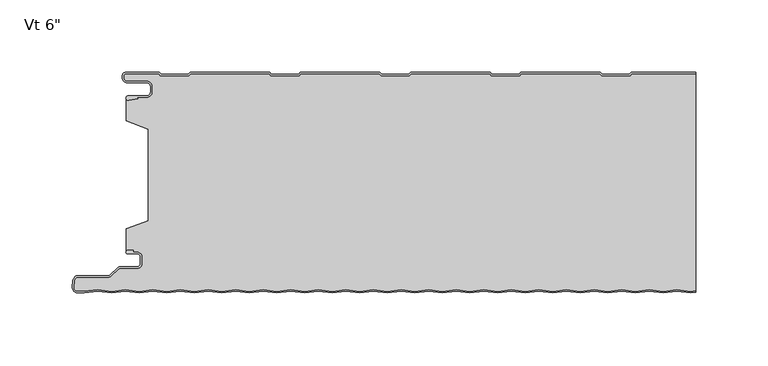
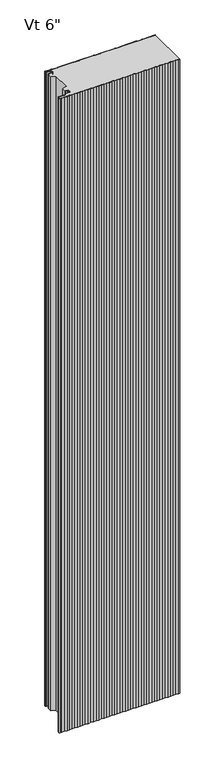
"""IFC4 building model written with IfcOpenShell, lengths in millimetres: plate geometry."""

from ifc_helpers import new_model, si_unit, point, frame, frame_2d, origin, origin_with_axes, place, context, project, spatial, polyline, circle_curve, trimmed, segment, composite_curve, outline, extrude, source, transform, mapped, element, save
from ifc_brep_helpers import plane_surface, cylinder_surface, revolved_surface, advanced_brep


def plate_6c949a24(model_context):
    return source(origin(), model_context, "Body", "SolidModel", [
        extrude(outline(composite_curve([segment(polyline([(-196.9639401, -1.03e-05), (-173.8991777, -1.03e-05), (-172.6989573, -1.2002307), (-153.8919247, -1.2002307), (-152.6916939, 0.0), (-97.6993404, 0.0), (-96.4991097, -1.2002307), (-77.6920771, -1.2002307), (-76.4918463, 0.0), (-21.5159312, 0.0), (-20.3157004, -1.2002307), (-1.5086678, -1.2002307), (-0.3084371, 0.0), (54.667478, 0.0), (55.8677088, -1.2002307), (74.6747414, -1.2002307), (75.8749721, 0.0), (130.8673256, 0.0), (132.0675564, -1.2002307), (150.874589, -1.2002307), (152.0748197, 0.0), (196.6137654, 0.0), (196.6137654, -1.0), (152.4890333, -1.0), (151.2888025, -2.2002307), (131.6533428, -2.2002307), (130.4531121, -1.0), (76.2891857, -1.0), (75.0889549, -2.2002307), (55.4534952, -2.2002307), (54.2532645, -1.0), (0.1057765, -1.0), (-1.0944543, -2.2002307), (-20.729914, -2.2002307), (-21.9301447, -1.0), (-76.0776328, -1.0), (-77.2778635, -2.2002307), (-96.9133232, -2.2002307), (-98.113554, -1.0), (-152.2774804, -1.0), (-153.4777111, -2.2002307), (-173.1131708, -2.2002307), (-174.3133912, -1.0000103), (-196.9839768, -1.0000103)]), True, "CONTINUOUS"), segment(trimmed(circle_curve(frame_2d((-197.0487242, -2.3984828)), 1.3999705), [point((-196.9839768, -1.0000103))], [point((-198.4486947, -2.3984828))], True, "CARTESIAN"), True, "CONTINUOUS"), segment(polyline([(-198.4486947, -2.3984828), (-198.4486947, -3.9515996)]), True, "CONTINUOUS"), segment(trimmed(circle_curve(frame_2d((-196.2386394, -3.9515996)), 2.2100553), [point((-198.4486947, -3.9515996))], [point((-196.2386394, -6.1616549))], True, "CARTESIAN"), True, "CONTINUOUS"), segment(polyline([(-196.2386394, -6.1616549), (-182.7094114, -6.1616549)]), True, "CONTINUOUS"), segment(trimmed(circle_curve(frame_2d((-182.7094114, -9.881641)), 3.7199861), [point((-182.7094114, -6.1616549))], [point((-178.9894252, -9.881641))], False, "CARTESIAN"), True, "CONTINUOUS"), segment(polyline([(-178.9894252, -9.881641), (-178.9894252, -13.5282389)]), True, "CONTINUOUS"), segment(trimmed(circle_curve(frame_2d((-182.7094216, -13.5282389)), 3.7199964), [point((-178.9894252, -13.5282389))], [point((-182.7094216, -17.2482353))], False, "CARTESIAN"), True, "CONTINUOUS"), segment(polyline([(-182.7094216, -17.2482353), (-189.0545396, -17.2482353), (-188.8919338, -18.1704184), (-195.1454629, -19.2730843)]), True, "CONTINUOUS"), segment(trimmed(circle_curve(frame_2d((-195.4101029, -17.7722363)), 1.524001), [point((-195.1454629, -19.2730843))], [point((-195.4101029, -16.2482353))], False, "CARTESIAN"), True, "CONTINUOUS"), segment(polyline([(-195.4101029, -16.2482353), (-182.7094216, -16.2482353)]), True, "CONTINUOUS"), segment(trimmed(circle_curve(frame_2d((-182.7094216, -13.5282389)), 2.7199964), [point((-182.7094216, -16.2482353))], [point((-179.9894252, -13.5282389))], True, "CARTESIAN"), True, "CONTINUOUS"), segment(polyline([(-179.9894252, -13.5282389), (-179.9894252, -9.881641)]), True, "CONTINUOUS"), segment(trimmed(circle_curve(frame_2d((-182.7094114, -9.881641)), 2.7199861), [point((-179.9894252, -9.881641))], [point((-182.7094114, -7.1616549))], True, "CARTESIAN"), True, "CONTINUOUS"), segment(polyline([(-182.7094114, -7.1616549), (-196.2386394, -7.1616549)]), True, "CONTINUOUS"), segment(trimmed(circle_curve(frame_2d((-196.2386394, -3.9515996)), 3.2100553), [point((-196.2386394, -7.1616549))], [point((-199.4486948, -3.9515996))], False, "CARTESIAN"), True, "CONTINUOUS"), segment(polyline([(-199.4486948, -3.9515996), (-199.4486947, -2.3984828)]), True, "CONTINUOUS"), segment(trimmed(circle_curve(frame_2d((-197.0487242, -2.3984828)), 2.3999705), [point((-199.4486947, -2.3984828))], [point((-196.9639401, -1.03e-05))], False, "CARTESIAN"), True, "CONTINUOUS")], self_intersect=False)), origin_with_axes(), (0.0, 0.0, 1.0), 2400.0),
        extrude(outline(composite_curve([segment(polyline([(-195.7329864, -122.8783009), (-191.9745857, -122.8783009), (-191.9745857, -124.2767845), (-189.2754693, -124.2767845)]), True, "CONTINUOUS"), segment(trimmed(circle_curve(frame_2d((-189.2754693, -127.6267844)), 3.3499999), [point((-189.2754693, -124.2767845))], [point((-185.9254694, -127.6267844))], False, "CARTESIAN"), True, "CONTINUOUS"), segment(polyline([(-185.9254694, -127.6267844), (-185.9254694, -132.0267842)]), True, "CONTINUOUS"), segment(trimmed(circle_curve(frame_2d((-189.2754693, -132.0267842)), 3.3499999), [point((-185.9254694, -132.0267842))], [point((-189.2754693, -135.3767841))], False, "CARTESIAN"), True, "CONTINUOUS"), segment(polyline([(-189.2754693, -135.3767841), (-201.0863815, -135.3767841)]), True, "CONTINUOUS"), segment(trimmed(circle_curve(frame_2d((-201.0863815, -137.0767841)), 1.7), [point((-201.0863815, -135.3767841))], [point((-202.288463, -135.8747026))], True, "CARTESIAN"), True, "CONTINUOUS"), segment(polyline([(-202.288463, -135.8747026), (-207.029022, -140.6152615)]), True, "CONTINUOUS"), segment(trimmed(circle_curve(frame_2d((-208.8674996, -138.7767839)), 2.6), [point((-207.029022, -140.6152615))], [point((-208.8674996, -141.3767839))], False, "CARTESIAN"), True, "CONTINUOUS"), segment(polyline([(-208.8674996, -141.3767839), (-229.8742569, -141.3767839)]), True, "CONTINUOUS"), segment(trimmed(circle_curve(frame_2d((-229.8742569, -144.0767839)), 2.7), [point((-229.8742569, -141.3767839))], [point((-232.563964, -143.8412511))], True, "CARTESIAN"), True, "CONTINUOUS"), segment(polyline([(-232.563964, -143.8412511), (-232.9796492, -148.5882397)]), True, "CONTINUOUS"), segment(trimmed(circle_curve(frame_2d((-230.4287597, -148.8116164)), 2.5606512), [point((-232.9796492, -148.5882397))], [point((-230.4287597, -151.3722676))], True, "CARTESIAN"), True, "CONTINUOUS"), segment(polyline([(-230.4287597, -151.3722676), (-225.7790982, -151.3722676), (-216.4481844, -150.3350254), (-206.9232034, -151.3938405), (-197.3982225, -150.3350254), (-187.8732415, -151.3938405), (-178.3482606, -150.3350254), (-168.8232796, -151.3938405), (-159.2982987, -150.3350254), (-149.7733177, -151.3938405), (-140.2483368, -150.3350254), (-130.7233558, -151.3938405), (-121.1983749, -150.3350254), (-111.6733939, -151.3938405), (-102.148413, -150.3350254), (-92.623432, -151.3938405), (-83.0984511, -150.3350254), (-73.5734701, -151.3938405), (-64.0484892, -150.3350254), (-54.5235082, -151.3938405), (-44.9985273, -150.3350254), (-35.4735463, -151.3938405), (-25.9485654, -150.3350254), (-16.4235844, -151.3938405), (-6.8986035, -150.3350254), (2.6263775, -151.3938405), (12.1513584, -150.3350254), (21.6763394, -151.3938405), (31.2013203, -150.3350254), (40.7263013, -151.3938405), (50.2512822, -150.3350254), (59.7762632, -151.3938405), (69.3012441, -150.3350254), (78.8262251, -151.3938405), (88.351206, -150.3350254), (97.876187, -151.3938405), (107.4011679, -150.3350254), (116.9261489, -151.3938405), (126.4511298, -150.3350254), (135.9761108, -151.3938405), (145.5010917, -150.3350254), (155.0260727, -151.3938405), (164.5510536, -150.3350254), (174.0760346, -151.3938405), (183.6010155, -150.3350254), (193.1259965, -151.3938405), (196.6137654, -151.0061334), (196.6137654, -152.0122929), (193.1259965, -152.4), (183.6010155, -151.3411849), (174.0760346, -152.4), (164.5510536, -151.3411849), (155.0260727, -152.4), (145.5010917, -151.3411849), (135.9761108, -152.4), (126.4511298, -151.3411849), (116.9261489, -152.4), (107.4011679, -151.3411849), (97.876187, -152.4), (88.351206, -151.3411849), (78.8262251, -152.4), (69.3012441, -151.3411849), (59.7762632, -152.4), (50.2512822, -151.3411849), (40.7263013, -152.4), (31.2013203, -151.3411849), (21.6763394, -152.4), (12.1513584, -151.3411849), (2.6263775, -152.4), (-6.8986035, -151.3411849), (-16.4235844, -152.4), (-25.9485654, -151.3411849), (-35.4735463, -152.4), (-44.9985273, -151.3411849), (-54.5235082, -152.4), (-64.0484892, -151.3411849), (-73.5734701, -152.4), (-83.0984511, -151.3411849), (-92.623432, -152.4), (-102.148413, -151.3411849), (-111.6733939, -152.4), (-121.1983749, -151.3411849), (-130.7233558, -152.4), (-140.2483368, -151.3411849), (-149.7733177, -152.4), (-159.2982987, -151.3411849), (-168.8232796, -152.4), (-178.3482606, -151.3411849), (-187.8732415, -152.4), (-197.3982225, -151.3411849), (-206.9232034, -152.4), (-216.4481844, -151.3411849), (-225.7236879, -152.3722676), (-230.4287597, -152.3722676)]), True, "CONTINUOUS"), segment(trimmed(circle_curve(frame_2d((-230.4287597, -148.8116164)), 3.5606512), [point((-230.4287597, -152.3722676))], [point((-233.975837, -148.5010053))], False, "CARTESIAN"), True, "CONTINUOUS"), segment(polyline([(-233.975837, -148.5010053), (-233.5601518, -143.7540168)]), True, "CONTINUOUS"), segment(trimmed(circle_curve(frame_2d((-229.8742569, -144.0767839)), 3.7), [point((-233.5601518, -143.7540168))], [point((-229.8742569, -140.3767839))], False, "CARTESIAN"), True, "CONTINUOUS"), segment(polyline([(-229.8742569, -140.3767839), (-208.8674996, -140.3767839)]), True, "CONTINUOUS"), segment(trimmed(circle_curve(frame_2d((-208.8674996, -138.7767839)), 1.6), [point((-208.8674996, -140.3767839))], [point((-207.7361288, -139.9081547))], True, "CARTESIAN"), True, "CONTINUOUS"), segment(polyline([(-207.7361288, -139.9081547), (-202.9955698, -135.1675958)]), True, "CONTINUOUS"), segment(trimmed(circle_curve(frame_2d((-201.0863815, -137.0767841)), 2.7), [point((-202.9955698, -135.1675958))], [point((-201.0863815, -134.3767841))], False, "CARTESIAN"), True, "CONTINUOUS"), segment(polyline([(-201.0863815, -134.3767841), (-189.2754693, -134.3767841)]), True, "CONTINUOUS"), segment(trimmed(circle_curve(frame_2d((-189.2754693, -132.0267842)), 2.3499999), [point((-189.2754693, -134.3767841))], [point((-186.9254694, -132.0267842))], True, "CARTESIAN"), True, "CONTINUOUS"), segment(polyline([(-186.9254694, -132.0267842), (-186.9254694, -127.6267844)]), True, "CONTINUOUS"), segment(trimmed(circle_curve(frame_2d((-189.2754693, -127.6267844)), 2.3499999), [point((-186.9254694, -127.6267844))], [point((-189.2754693, -125.2767845))], True, "CARTESIAN"), True, "CONTINUOUS"), segment(polyline([(-189.2754693, -125.2767845), (-195.7947883, -125.2767845)]), True, "CONTINUOUS"), segment(trimmed(circle_curve(frame_2d((-195.734501, -124.0782999)), 1.2), [point((-195.7947883, -125.2767845))], [point((-195.7329864, -122.8783009))], False, "CARTESIAN"), True, "CONTINUOUS")], self_intersect=False)), origin_with_axes(), (0.0, 0.0, 1.0), 2400.0),
        advanced_brep(
        [(-189.2754693, -124.282944, 2400.0), (-185.9254694, -127.6329439, 2400.0), (-185.9254694, -132.0329437, 2400.0), (-189.2754693, -135.3829436, 2400.0), (-201.0863815, -135.3829436, 2400.0), (-202.288463, -135.8808621, 2400.0), (-207.029022, -140.621421, 2400.0), (-208.8674996, -141.3829434, 2400.0), (-229.8742569, -141.3829434, 2400.0), (-232.563964, -143.8474106, 2400.0), (-232.9796492, -148.5943992, 2400.0), (-230.4287597, -151.3784271, 2400.0), (-225.77874, -151.3784271, 2400.0), (-216.4478261, -150.3411849, 2400.0), (-206.9228452, -151.4, 2400.0), (-197.3978642, -150.3411849, 2400.0), (-187.8728833, -151.4, 2400.0), (-178.3479023, -150.3411849, 2400.0), (-168.8229214, -151.4, 2400.0), (-159.2979404, -150.3411849, 2400.0), (-149.7729595, -151.4, 2400.0), (-140.2479785, -150.3411849, 2400.0), (-130.7229976, -151.4, 2400.0), (-121.1980166, -150.3411849, 2400.0), (-111.6730357, -151.4, 2400.0), (-102.1480547, -150.3411849, 2400.0), (-92.6230738, -151.4, 2400.0), (-83.0980928, -150.3411849, 2400.0), (-73.5731119, -151.4, 2400.0), (-64.0481309, -150.3411849, 2400.0), (-54.52315, -151.4, 2400.0), (-44.998169, -150.3411849, 2400.0), (-35.4731881, -151.4, 2400.0), (-25.9482071, -150.3411849, 2400.0), (-16.4232262, -151.4, 2400.0), (-6.8982452, -150.3411849, 2400.0), (2.6267357, -151.4, 2400.0), (12.1517167, -150.3411849, 2400.0), (21.6766976, -151.4, 2400.0), (31.2016786, -150.3411849, 2400.0), (40.7266595, -151.4, 2400.0), (50.2516405, -150.3411849, 2400.0), (59.7766214, -151.4, 2400.0), (69.3016024, -150.3411849, 2400.0), (78.8265833, -151.4, 2400.0), (88.3515643, -150.3411849, 2400.0), (97.8765452, -151.4, 2400.0), (107.4015262, -150.3411849, 2400.0), (116.9265071, -151.4, 2400.0), (126.4514881, -150.3411849, 2400.0), (135.976469, -151.4, 2400.0), (145.50145, -150.3411849, 2400.0), (155.0264309, -151.4, 2400.0), (164.5514119, -150.3411849, 2400.0), (174.0763928, -151.4, 2400.0), (183.6013738, -150.3411849, 2400.0), (193.1263547, -151.4, 2400.0), (196.6137654, -151.0123328, 2400.0), (196.6137654, -1.0, 2400.0), (152.4890333, -1.0, 2400.0), (151.2888025, -2.2002307, 2400.0), (131.6533428, -2.2002307, 2400.0), (130.4531121, -1.0, 2400.0), (76.2891857, -1.0, 2400.0), (75.0889549, -2.2002307, 2400.0), (55.4534952, -2.2002307, 2400.0), (54.2532645, -1.0, 2400.0), (0.1057765, -1.0, 2400.0), (-1.0944543, -2.2002307, 2400.0), (-20.729914, -2.2002307, 2400.0), (-21.9301447, -1.0, 2400.0), (-76.0776328, -1.0, 2400.0), (-77.2778635, -2.2002307, 2400.0), (-96.9133232, -2.2002307, 2400.0), (-98.113554, -1.0, 2400.0), (-152.2774804, -1.0, 2400.0), (-153.4777111, -2.2002307, 2400.0), (-173.1131708, -2.2002307, 2400.0), (-174.3133912, -1.0000103, 2400.0), (-196.9839768, -1.0000103, 2400.0), (-198.4486947, -2.3984828, 2400.0), (-198.4486947, -3.9515996, 2400.0), (-196.2386394, -6.1616549, 2400.0), (-182.7094114, -6.1616549, 2400.0), (-178.9894252, -9.881641, 2400.0), (-178.9894252, -13.5282389, 2400.0), (-182.7094216, -17.2482353, 2400.0), (-189.0545396, -17.2482353, 2400.0), (-188.8919338, -18.1704184, 2400.0), (-195.1454629, -19.2730843, 2400.0), (-196.5999998, -18.7244571, 2400.0), (-196.5999998, -33.5050578, 2400.0), (-181.6020466, -39.1301019, 2400.0), (-181.588281, -102.5686066, 2400.0), (-196.5999998, -108.1712613, 2400.0), (-196.5999998, -123.2532484, 2400.0), (-195.7329864, -122.8844604, 2400.0), (-191.9745857, -122.8844604, 2400.0), (-191.9745857, -124.282944, 2400.0), (-189.2754693, -124.282944, 0.0), (-191.9745857, -124.282944, 0.0), (-191.9745857, -122.8844604, 0.0), (-195.7329864, -122.8844604, 0.0), (-196.5999998, -123.2532484, 0.0), (-196.5999998, -108.1712613, 0.0), (-181.6020466, -102.5470337, 0.0), (-181.588281, -39.1301019, 0.0), (-196.5999998, -33.5050578, 0.0), (-196.5999998, -18.7244571, 0.0), (-195.1454629, -19.2730843, 0.0), (-188.8919338, -18.1704184, 0.0), (-189.0545396, -17.2482353, 0.0), (-182.7094216, -17.2482353, 0.0), (-178.9894252, -13.5282389, 0.0), (-178.9894252, -9.881641, 0.0), (-182.7094114, -6.1616549, 0.0), (-196.2386394, -6.1616549, 0.0), (-198.4486948, -3.9515996, 0.0), (-198.4486947, -2.3984828, 0.0), (-196.9839768, -1.0000103, 0.0), (-174.3133912, -1.0000103, 0.0), (-173.1131708, -2.2002307, 0.0), (-153.4777111, -2.2002307, 0.0), (-152.2774804, -1.0, 0.0), (-98.113554, -1.0, 0.0), (-96.9133232, -2.2002307, 0.0), (-77.2778635, -2.2002307, 0.0), (-76.0776328, -1.0, 0.0), (-21.9301447, -1.0, 0.0), (-20.729914, -2.2002307, 0.0), (-1.0944543, -2.2002307, 0.0), (0.1057765, -1.0, 0.0), (54.2532645, -1.0, 0.0), (55.4534952, -2.2002307, 0.0), (75.0889549, -2.2002307, 0.0), (76.2891857, -1.0, 0.0), (130.4531121, -1.0, 0.0), (131.6533428, -2.2002307, 0.0), (151.2888025, -2.2002307, 0.0), (152.4890333, -1.0, 0.0), (196.6137654, -1.0, 0.0), (196.6137654, -151.0123328, 0.0), (193.1263547, -151.4, 0.0), (183.6013738, -150.3411849, 0.0), (174.0763928, -151.4, 0.0), (164.5514119, -150.3411849, 0.0), (155.0264309, -151.4, 0.0), (145.50145, -150.3411849, 0.0), (135.976469, -151.4, 0.0), (126.4514881, -150.3411849, 0.0), (116.9265071, -151.4, 0.0), (107.4015262, -150.3411849, 0.0), (97.8765452, -151.4, 0.0), (88.3515643, -150.3411849, 0.0), (78.8265833, -151.4, 0.0), (69.3016024, -150.3411849, 0.0), (59.7766214, -151.4, 0.0), (50.2516405, -150.3411849, 0.0), (40.7266595, -151.4, 0.0), (31.2016786, -150.3411849, 0.0), (21.6766976, -151.4, 0.0), (12.1517167, -150.3411849, 0.0), (2.6267357, -151.4, 0.0), (-6.8982452, -150.3411849, 0.0), (-16.4232262, -151.4, 0.0), (-25.9482071, -150.3411849, 0.0), (-35.4731881, -151.4, 0.0), (-44.998169, -150.3411849, 0.0), (-54.52315, -151.4, 0.0), (-64.0481309, -150.3411849, 0.0), (-73.5731119, -151.4, 0.0), (-83.0980928, -150.3411849, 0.0), (-92.6230738, -151.4, 0.0), (-102.1480547, -150.3411849, 0.0), (-111.6730357, -151.4, 0.0), (-121.1980166, -150.3411849, 0.0), (-130.7229976, -151.4, 0.0), (-140.2479785, -150.3411849, 0.0), (-149.7729595, -151.4, 0.0), (-159.2979404, -150.3411849, 0.0), (-168.8229214, -151.4, 0.0), (-178.3479023, -150.3411849, 0.0), (-187.8728833, -151.4, 0.0), (-197.3978642, -150.3411849, 0.0), (-206.9228452, -151.4, 0.0), (-216.4478261, -150.3411849, 0.0), (-225.77874, -151.3784271, 0.0), (-230.4287597, -151.3784271, 0.0), (-232.9796492, -148.5943992, 0.0), (-232.563964, -143.8474106, 0.0), (-229.8742569, -141.3829434, 0.0), (-208.8674996, -141.3829434, 0.0), (-207.029022, -140.621421, 0.0), (-202.288463, -135.8808621, 0.0), (-201.0863815, -135.3829436, 0.0), (-189.2754693, -135.3829436, 0.0), (-185.9254694, -132.0329437, 0.0), (-185.9254694, -127.6329439, 0.0)],
        [
            (0, 1, circle_curve(frame((-189.2754693, -127.6329439, 2400.0), z_axis=(0.0, 0.0, -1.0), x_axis=(-1.0, 0.0, 0.0)), 3.3499999)),
            (1, 2),
            (2, 3, circle_curve(frame((-189.2754693, -132.0329437, 2400.0), z_axis=(0.0, 0.0, -1.0), x_axis=(-1.0, 0.0, 0.0)), 3.3499999)),
            (3, 4),
            (4, 5, circle_curve(frame((-201.0863815, -137.0829436, 2400.0), z_axis=(0.0, 0.0, 1.0), x_axis=(-1.0, 0.0, 0.0)), 1.7)),
            (5, 6),
            (6, 7, circle_curve(frame((-208.8674996, -138.7829434, 2400.0), z_axis=(0.0, 0.0, -1.0), x_axis=(-1.0, 0.0, 0.0)), 2.6)),
            (7, 8),
            (8, 9, circle_curve(frame((-229.8742569, -144.0829434, 2400.0), z_axis=(0.0, 0.0, 1.0), x_axis=(-1.0, 0.0, 0.0)), 2.7)),
            (9, 10),
            (10, 11, circle_curve(frame((-230.4287597, -148.817776, 2400.0), z_axis=(0.0, 0.0, 1.0), x_axis=(-1.0, 0.0, 0.0)), 2.5606512)),
            (11, 12),
            (12, 13),
            (13, 14),
            (14, 15),
            (15, 16),
            (16, 17),
            (17, 18),
            (18, 19),
            (19, 20),
            (20, 21),
            (21, 22),
            (22, 23),
            (23, 24),
            (24, 25),
            (25, 26),
            (26, 27),
            (27, 28),
            (28, 29),
            (29, 30),
            (30, 31),
            (31, 32),
            (32, 33),
            (33, 34),
            (34, 35),
            (35, 36),
            (36, 37),
            (37, 38),
            (38, 39),
            (39, 40),
            (40, 41),
            (41, 42),
            (42, 43),
            (43, 44),
            (44, 45),
            (45, 46),
            (46, 47),
            (47, 48),
            (48, 49),
            (49, 50),
            (50, 51),
            (51, 52),
            (52, 53),
            (53, 54),
            (54, 55),
            (55, 56),
            (56, 57),
            (57, 58),
            (58, 59),
            (59, 60),
            (60, 61),
            (61, 62),
            (62, 63),
            (63, 64),
            (64, 65),
            (65, 66),
            (66, 67),
            (67, 68),
            (68, 69),
            (69, 70),
            (70, 71),
            (71, 72),
            (72, 73),
            (73, 74),
            (74, 75),
            (75, 76),
            (76, 77),
            (77, 78),
            (78, 79),
            (79, 80, circle_curve(frame((-197.0487242, -2.3984828, 2400.0), z_axis=(0.0, 0.0, 1.0), x_axis=(-1.0, 0.0, 0.0)), 1.3999705)),
            (80, 81),
            (81, 82, circle_curve(frame((-196.2386394, -3.9515996, 2400.0), z_axis=(0.0, 0.0, 1.0), x_axis=(-1.0, 0.0, 0.0)), 2.2100553)),
            (82, 83),
            (83, 84, circle_curve(frame((-182.7094114, -9.881641, 2400.0), z_axis=(0.0, 0.0, -1.0), x_axis=(-1.0, 0.0, 0.0)), 3.7199861)),
            (84, 85),
            (85, 86, circle_curve(frame((-182.7094216, -13.5282389, 2400.0), z_axis=(0.0, 0.0, -1.0), x_axis=(-1.0, 0.0, 0.0)), 3.7199964)),
            (86, 87),
            (87, 88),
            (88, 89),
            (89, 90, circle_curve(frame((-195.4101029, -17.7722363, 2400.0), z_axis=(0.0, 0.0, -1.0), x_axis=(-1.0, 0.0, 0.0)), 1.524001)),
            (90, 91),
            (91, 92),
            (92, 93),
            (93, 94),
            (94, 95),
            (95, 96, circle_curve(frame((-195.734501, -124.0844594, 2400.0), z_axis=(0.0, 0.0, -1.0), x_axis=(-1.0, 0.0, 0.0)), 1.2)),
            (96, 97),
            (97, 98),
            (98, 0),
            (99, 100),
            (100, 101),
            (101, 102),
            (102, 103, circle_curve(frame((-195.734501, -124.0844594, 0.0), z_axis=(0.0, 0.0, 1.0), x_axis=(-1.0, 0.0, 0.0)), 1.2)),
            (103, 104),
            (104, 105),
            (105, 106),
            (106, 107),
            (107, 108),
            (108, 109, circle_curve(frame((-195.4101029, -17.7722363, 0.0), z_axis=(0.0, 0.0, 1.0), x_axis=(-1.0, 0.0, 0.0)), 1.524001)),
            (109, 110),
            (110, 111),
            (111, 112),
            (112, 113, circle_curve(frame((-182.7094216, -13.5282389, 0.0), z_axis=(0.0, 0.0, 1.0), x_axis=(-1.0, 0.0, 0.0)), 3.7199964)),
            (113, 114),
            (114, 115, circle_curve(frame((-182.7094114, -9.881641, 0.0), z_axis=(0.0, 0.0, 1.0), x_axis=(-1.0, 0.0, 0.0)), 3.7199861)),
            (115, 116),
            (116, 117, circle_curve(frame((-196.2386394, -3.9515996, 0.0), z_axis=(0.0, 0.0, -1.0), x_axis=(-1.0, 0.0, 0.0)), 2.2100553)),
            (117, 118),
            (118, 119, circle_curve(frame((-197.0487242, -2.3984828, 0.0), z_axis=(0.0, 0.0, -1.0), x_axis=(-1.0, 0.0, 0.0)), 1.3999705)),
            (119, 120),
            (120, 121),
            (121, 122),
            (122, 123),
            (123, 124),
            (124, 125),
            (125, 126),
            (126, 127),
            (127, 128),
            (128, 129),
            (129, 130),
            (130, 131),
            (131, 132),
            (132, 133),
            (133, 134),
            (134, 135),
            (135, 136),
            (136, 137),
            (137, 138),
            (138, 139),
            (139, 140),
            (140, 141),
            (141, 142),
            (142, 143),
            (143, 144),
            (144, 145),
            (145, 146),
            (146, 147),
            (147, 148),
            (148, 149),
            (149, 150),
            (150, 151),
            (151, 152),
            (152, 153),
            (153, 154),
            (154, 155),
            (155, 156),
            (156, 157),
            (157, 158),
            (158, 159),
            (159, 160),
            (160, 161),
            (161, 162),
            (162, 163),
            (163, 164),
            (164, 165),
            (165, 166),
            (166, 167),
            (167, 168),
            (168, 169),
            (169, 170),
            (170, 171),
            (171, 172),
            (172, 173),
            (173, 174),
            (174, 175),
            (175, 176),
            (176, 177),
            (177, 178),
            (178, 179),
            (179, 180),
            (180, 181),
            (181, 182),
            (182, 183),
            (183, 184),
            (184, 185),
            (185, 186),
            (186, 187),
            (187, 188, circle_curve(frame((-230.4287597, -148.817776, 0.0), z_axis=(0.0, 0.0, -1.0), x_axis=(-1.0, 0.0, 0.0)), 2.5606512)),
            (188, 189),
            (189, 190, circle_curve(frame((-229.8742569, -144.0829434, 0.0), z_axis=(0.0, 0.0, -1.0), x_axis=(-1.0, 0.0, 0.0)), 2.7)),
            (190, 191),
            (191, 192, circle_curve(frame((-208.8674996, -138.7829434, 0.0), z_axis=(0.0, 0.0, 1.0), x_axis=(-1.0, 0.0, 0.0)), 2.6)),
            (192, 193),
            (193, 194, circle_curve(frame((-201.0863815, -137.0829436, 0.0), z_axis=(0.0, 0.0, -1.0), x_axis=(-1.0, 0.0, 0.0)), 1.7)),
            (194, 195),
            (195, 196, circle_curve(frame((-189.2754693, -132.0329437, 0.0), z_axis=(0.0, 0.0, 1.0), x_axis=(-1.0, 0.0, 0.0)), 3.3499999)),
            (196, 197),
            (197, 99, circle_curve(frame((-189.2754693, -127.6329439, 0.0), z_axis=(0.0, 0.0, 1.0), x_axis=(-1.0, 0.0, 0.0)), 3.3499999)),
            (83, 115),
            (114, 84),
            (82, 116),
            (81, 117),
            (80, 118),
            (79, 119),
            (78, 120),
            (77, 121),
            (76, 122),
            (75, 123),
            (74, 124),
            (73, 125),
            (72, 126),
            (71, 127),
            (70, 128),
            (69, 129),
            (68, 130),
            (67, 131),
            (66, 132),
            (65, 133),
            (64, 134),
            (63, 135),
            (62, 136),
            (61, 137),
            (60, 138),
            (59, 139),
            (58, 140),
            (91, 107),
            (106, 92),
            (90, 108),
            (89, 109),
            (88, 110),
            (87, 111),
            (86, 112),
            (85, 113),
            (105, 93),
            (10, 188),
            (187, 11),
            (9, 189),
            (8, 190),
            (6, 192),
            (191, 7),
            (5, 193),
            (4, 194),
            (3, 195),
            (2, 196),
            (1, 197),
            (94, 104),
            (103, 95),
            (141, 57),
            (56, 142),
            (55, 143),
            (54, 144),
            (53, 145),
            (52, 146),
            (51, 147),
            (50, 148),
            (49, 149),
            (48, 150),
            (47, 151),
            (46, 152),
            (45, 153),
            (44, 154),
            (43, 155),
            (42, 156),
            (41, 157),
            (40, 158),
            (39, 159),
            (38, 160),
            (37, 161),
            (36, 162),
            (35, 163),
            (34, 164),
            (33, 165),
            (32, 166),
            (31, 167),
            (30, 168),
            (29, 169),
            (28, 170),
            (27, 171),
            (26, 172),
            (25, 173),
            (24, 174),
            (23, 175),
            (22, 176),
            (21, 177),
            (20, 178),
            (19, 179),
            (18, 180),
            (17, 181),
            (16, 182),
            (15, 183),
            (14, 184),
            (13, 185),
            (12, 186),
            (102, 96),
            (101, 97),
            (100, 98),
            (0, 99),
        ],
        [
            plane_surface(frame((336.2637657, -151.4, 2400.0), z_axis=(0.0, 0.0, 1.0), x_axis=(0.0, -1.0, 0.0))),
            plane_surface(frame((336.2637657, -151.4, 0.0), z_axis=(0.0, 0.0, -1.0), x_axis=(0.0, -1.0, 0.0))),
            revolved_surface(polyline([(-186.4293975, -9.881641, 0.0), (-186.4293975, -9.881641, 2400.0)]), (-182.7094114, -9.881641, 2400.0), (0.0, 0.0, -1.0)),
            plane_surface(frame((-182.7094114, -6.1616549, 2400.0), z_axis=(0.0, -1.0, 0.0), x_axis=(0.0, 0.0, -1.0))),
            cylinder_surface(frame((-196.2386394, -3.9515996, 2400.0), z_axis=(0.0, 0.0, 1.0), x_axis=(-1.0, 0.0, 0.0)), 2.2100553),
            plane_surface(frame((-198.4486947, -3.9515996, 2400.0), z_axis=(-1.0, 0.0, 0.0), x_axis=(0.0, 0.0, -1.0))),
            cylinder_surface(frame((-197.0487242, -2.3984828, 2400.0), z_axis=(0.0, 0.0, 1.0), x_axis=(-1.0, 0.0, 0.0)), 1.3999705),
            plane_surface(frame((-196.9839768, -1.0000103, 2400.0), z_axis=(0.0, 1.0, 0.0), x_axis=(0.0, 0.0, -1.0))),
            plane_surface(frame((-174.3133912, -1.0000103, 2400.0), z_axis=(0.7071067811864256, 0.7071067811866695, 0.0), x_axis=(0.0, 0.0, -1.0))),
            plane_surface(frame((-163.295441, -2.2002307, 2400.0), z_axis=(0.0, 1.0, 0.0), x_axis=(0.0, 0.0, -1.0))),
            plane_surface(frame((-153.4777111, -2.2002307, 2400.0), z_axis=(-0.7071067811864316, 0.7071067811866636, 0.0), x_axis=(0.0, 0.0, -1.0))),
            plane_surface(frame((-152.2774804, -1.0, 2400.0), z_axis=(0.0, 1.0, 0.0), x_axis=(0.0, 0.0, -1.0))),
            plane_surface(frame((-98.113554, -1.0, 2400.0), z_axis=(0.7071067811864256, 0.7071067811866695, 0.0), x_axis=(0.0, 0.0, -1.0))),
            plane_surface(frame((-87.0955934, -2.2002307, 2400.0), z_axis=(0.0, 1.0, 0.0), x_axis=(0.0, 0.0, -1.0))),
            plane_surface(frame((-77.2778635, -2.2002307, 2400.0), z_axis=(-0.7071067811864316, 0.7071067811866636, 0.0), x_axis=(0.0, 0.0, -1.0))),
            plane_surface(frame((-76.0776328, -1.0, 2400.0), z_axis=(0.0, 1.0, 0.0), x_axis=(0.0, 0.0, -1.0))),
            plane_surface(frame((-21.9301447, -1.0, 2400.0), z_axis=(0.7071067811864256, 0.7071067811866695, 0.0), x_axis=(0.0, 0.0, -1.0))),
            plane_surface(frame((-10.9121841, -2.2002307, 2400.0), z_axis=(0.0, 1.0, 0.0), x_axis=(0.0, 0.0, -1.0))),
            plane_surface(frame((-1.0944543, -2.2002307, 2400.0), z_axis=(-0.7071067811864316, 0.7071067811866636, 0.0), x_axis=(0.0, 0.0, -1.0))),
            plane_surface(frame((0.1057765, -1.0, 2400.0), z_axis=(0.0, 1.0, 0.0), x_axis=(0.0, 0.0, -1.0))),
            plane_surface(frame((54.2532645, -1.0, 2400.0), z_axis=(0.7071067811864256, 0.7071067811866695, 0.0), x_axis=(0.0, 0.0, -1.0))),
            plane_surface(frame((65.2712251, -2.2002307, 2400.0), z_axis=(0.0, 1.0, 0.0), x_axis=(0.0, 0.0, -1.0))),
            plane_surface(frame((75.0889549, -2.2002307, 2400.0), z_axis=(-0.7071067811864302, 0.7071067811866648, 0.0), x_axis=(0.0, 0.0, -1.0))),
            plane_surface(frame((76.2891857, -1.0, 2400.0), z_axis=(0.0, 1.0, 0.0), x_axis=(0.0, 0.0, -1.0))),
            plane_surface(frame((130.4531121, -1.0, 2400.0), z_axis=(0.7071067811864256, 0.7071067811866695, 0.0), x_axis=(0.0, 0.0, -1.0))),
            plane_surface(frame((141.4710727, -2.2002307, 2400.0), z_axis=(0.0, 1.0, 0.0), x_axis=(0.0, 0.0, -1.0))),
            plane_surface(frame((151.2888025, -2.2002307, 2400.0), z_axis=(-0.7071067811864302, 0.7071067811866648, 0.0), x_axis=(0.0, 0.0, -1.0))),
            plane_surface(frame((152.4890333, -1.0, 2400.0), z_axis=(0.0, 1.0, 0.0), x_axis=(0.0, 0.0, -1.0))),
            plane_surface(frame((-181.6020466, -39.1301019, 2400.0), z_axis=(-0.35116785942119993, -0.9363125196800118, 0.0), x_axis=(0.0, 0.0, -1.0))),
            plane_surface(frame((-196.5999998, -33.5050578, 2400.0), z_axis=(-1.0, 0.0, 0.0), x_axis=(0.0, 0.0, -1.0))),
            revolved_surface(polyline([(-196.9341039, -17.7722363, 0.0), (-196.9341039, -17.7722363, 2400.0)]), (-195.4101029, -17.7722363, 2400.0), (0.0, 0.0, -1.0)),
            plane_surface(frame((-195.1454629, -19.2730843, 2400.0), z_axis=(-0.17364817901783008, 0.9848077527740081, 0.0), x_axis=(0.0, 0.0, -1.0))),
            plane_surface(frame((-188.8919338, -18.1704184, 2400.0), z_axis=(-0.9848077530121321, -0.17364817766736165, 0.0), x_axis=(0.0, 0.0, -1.0))),
            plane_surface(frame((-189.0545396, -17.2482353, 2400.0), z_axis=(0.0, 1.0, 0.0), x_axis=(0.0, 0.0, -1.0))),
            revolved_surface(polyline([(-186.42941800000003, -13.5282389, 0.0), (-186.42941800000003, -13.5282389, 2400.0)]), (-182.7094216, -13.5282389, 2400.0), (0.0, 0.0, -1.0)),
            plane_surface(frame((-178.9894252, -13.5282389, 2400.0), z_axis=(-1.0, 0.0, 0.0), x_axis=(0.0, 0.0, -1.0))),
            plane_surface(frame((-181.588281, -102.5686066, 2400.0), z_axis=(-1.0, 0.0, 0.0), x_axis=(0.0, 0.0, -1.0))),
            cylinder_surface(frame((-230.4287597, -148.817776, 2400.0), z_axis=(0.0, 0.0, 1.0), x_axis=(-1.0, 0.0, 0.0)), 2.5606512),
            plane_surface(frame((-232.9796492, -148.5943992, 2400.0), z_axis=(-0.9961878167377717, 0.08723436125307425, 0.0), x_axis=(0.0, 0.0, -1.0))),
            cylinder_surface(frame((-229.8742569, -144.0829434, 2400.0), z_axis=(0.0, 0.0, 1.0), x_axis=(-1.0, 0.0, 0.0)), 2.7),
            revolved_surface(polyline([(-211.4674996, -138.7829434, 0.0), (-211.4674996, -138.7829434, 2400.0)]), (-208.8674996, -138.7829434, 2400.0), (0.0, 0.0, -1.0)),
            plane_surface(frame((-207.029022, -140.621421, 2400.0), z_axis=(-0.7071067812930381, 0.7071067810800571, 0.0), x_axis=(0.0, 0.0, -1.0))),
            cylinder_surface(frame((-201.0863815, -137.0829436, 2400.0), z_axis=(0.0, 0.0, 1.0), x_axis=(-1.0, 0.0, 0.0)), 1.7),
            plane_surface(frame((-201.0863815, -135.3829436, 2400.0), z_axis=(0.0, 1.0, 0.0), x_axis=(0.0, 0.0, -1.0))),
            revolved_surface(polyline([(-192.6254692, -132.0329437, 0.0), (-192.6254692, -132.0329437, 2400.0)]), (-189.2754693, -132.0329437, 2400.0), (0.0, 0.0, -1.0)),
            plane_surface(frame((-185.9254694, -132.0329437, 2400.0), z_axis=(-1.0, 0.0, 0.0), x_axis=(0.0, 0.0, -1.0))),
            plane_surface(frame((-196.5999998, -123.2532484, 2400.0), z_axis=(-1.0, 0.0, 0.0), x_axis=(0.0, 0.0, -1.0))),
            plane_surface(frame((-196.5999998, -108.1712613, 2400.0), z_axis=(-0.3511231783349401, 0.9363292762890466, 0.0), x_axis=(0.0, 0.0, -1.0))),
            plane_surface(frame((202.6513357, -150.3411849, 2400.0), z_axis=(0.11048140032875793, -0.9938781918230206, 0.0), x_axis=(0.0, 0.0, -1.0))),
            plane_surface(frame((193.1263547, -151.4, 2400.0), z_axis=(-0.11048140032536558, -0.9938781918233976, 0.0), x_axis=(0.0, 0.0, -1.0))),
            plane_surface(frame((183.6013738, -150.3411849, 2400.0), z_axis=(0.11048140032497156, -0.9938781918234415, 0.0), x_axis=(0.0, 0.0, -1.0))),
            plane_surface(frame((174.0763928, -151.4, 2400.0), z_axis=(-0.11048140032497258, -0.9938781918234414, 0.0), x_axis=(0.0, 0.0, -1.0))),
            plane_surface(frame((164.5514119, -150.3411849, 2400.0), z_axis=(0.11048140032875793, -0.9938781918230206, 0.0), x_axis=(0.0, 0.0, -1.0))),
            plane_surface(frame((155.0264309, -151.4, 2400.0), z_axis=(-0.11048140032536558, -0.9938781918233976, 0.0), x_axis=(0.0, 0.0, -1.0))),
            plane_surface(frame((145.50145, -150.3411849, 2400.0), z_axis=(0.11048140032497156, -0.9938781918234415, 0.0), x_axis=(0.0, 0.0, -1.0))),
            plane_surface(frame((135.976469, -151.4, 2400.0), z_axis=(-0.11048140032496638, -0.9938781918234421, 0.0), x_axis=(0.0, 0.0, -1.0))),
            plane_surface(frame((126.4514881, -150.3411849, 2400.0), z_axis=(0.11048140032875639, -0.9938781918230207, 0.0), x_axis=(0.0, 0.0, -1.0))),
            plane_surface(frame((116.9265071, -151.4, 2400.0), z_axis=(-0.11048140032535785, -0.9938781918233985, 0.0), x_axis=(0.0, 0.0, -1.0))),
            plane_surface(frame((107.4015262, -150.3411849, 2400.0), z_axis=(0.11048140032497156, -0.9938781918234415, 0.0), x_axis=(0.0, 0.0, -1.0))),
            plane_surface(frame((97.8765452, -151.4, 2400.0), z_axis=(-0.11048140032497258, -0.9938781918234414, 0.0), x_axis=(0.0, 0.0, -1.0))),
            plane_surface(frame((88.3515643, -150.3411849, 2400.0), z_axis=(0.11048140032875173, -0.9938781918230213, 0.0), x_axis=(0.0, 0.0, -1.0))),
            plane_surface(frame((78.8265833, -151.4, 2400.0), z_axis=(-0.11048140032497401, -0.9938781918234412, 0.0), x_axis=(0.0, 0.0, -1.0))),
            plane_surface(frame((69.3016024, -150.3411849, 2400.0), z_axis=(0.11048140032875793, -0.9938781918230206, 0.0), x_axis=(0.0, 0.0, -1.0))),
            plane_surface(frame((59.7766214, -151.4, 2400.0), z_axis=(-0.11048140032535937, -0.9938781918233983, 0.0), x_axis=(0.0, 0.0, -1.0))),
            plane_surface(frame((50.2516405, -150.3411849, 2400.0), z_axis=(0.1104814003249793, -0.9938781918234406, 0.0), x_axis=(0.0, 0.0, -1.0))),
            plane_surface(frame((40.7266595, -151.4, 2400.0), z_axis=(-0.11048140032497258, -0.9938781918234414, 0.0), x_axis=(0.0, 0.0, -1.0))),
            plane_surface(frame((31.2016786, -150.3411849, 2400.0), z_axis=(0.11048140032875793, -0.9938781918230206, 0.0), x_axis=(0.0, 0.0, -1.0))),
            plane_surface(frame((21.6766976, -151.4, 2400.0), z_axis=(-0.11048140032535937, -0.9938781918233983, 0.0), x_axis=(0.0, 0.0, -1.0))),
            plane_surface(frame((12.1517167, -150.3411849, 2400.0), z_axis=(0.1104814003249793, -0.9938781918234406, 0.0), x_axis=(0.0, 0.0, -1.0))),
            plane_surface(frame((2.6267357, -151.4, 2400.0), z_axis=(-0.11048140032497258, -0.9938781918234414, 0.0), x_axis=(0.0, 0.0, -1.0))),
            plane_surface(frame((-6.8982452, -150.3411849, 2400.0), z_axis=(0.11048140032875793, -0.9938781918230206, 0.0), x_axis=(0.0, 0.0, -1.0))),
            plane_surface(frame((-16.4232262, -151.4, 2400.0), z_axis=(-0.11048140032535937, -0.9938781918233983, 0.0), x_axis=(0.0, 0.0, -1.0))),
            plane_surface(frame((-25.9482071, -150.3411849, 2400.0), z_axis=(0.1104814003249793, -0.9938781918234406, 0.0), x_axis=(0.0, 0.0, -1.0))),
            plane_surface(frame((-35.4731881, -151.4, 2400.0), z_axis=(-0.11048140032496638, -0.9938781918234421, 0.0), x_axis=(0.0, 0.0, -1.0))),
            plane_surface(frame((-44.998169, -150.3411849, 2400.0), z_axis=(0.11048140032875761, -0.9938781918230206, 0.0), x_axis=(0.0, 0.0, -1.0))),
            plane_surface(frame((-54.52315, -151.4, 2400.0), z_axis=(-0.11048140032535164, -0.9938781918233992, 0.0), x_axis=(0.0, 0.0, -1.0))),
            plane_surface(frame((-64.0481309, -150.3411849, 2400.0), z_axis=(0.1104814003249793, -0.9938781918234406, 0.0), x_axis=(0.0, 0.0, -1.0))),
            plane_surface(frame((-73.5731119, -151.4, 2400.0), z_axis=(-0.11048140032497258, -0.9938781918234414, 0.0), x_axis=(0.0, 0.0, -1.0))),
            plane_surface(frame((-83.0980928, -150.3411849, 2400.0), z_axis=(0.11048140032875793, -0.9938781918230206, 0.0), x_axis=(0.0, 0.0, -1.0))),
            plane_surface(frame((-92.6230738, -151.4, 2400.0), z_axis=(-0.11048140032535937, -0.9938781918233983, 0.0), x_axis=(0.0, 0.0, -1.0))),
            plane_surface(frame((-102.1480547, -150.3411849, 2400.0), z_axis=(0.1104814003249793, -0.9938781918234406, 0.0), x_axis=(0.0, 0.0, -1.0))),
            plane_surface(frame((-111.6730357, -151.4, 2400.0), z_axis=(-0.11048140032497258, -0.9938781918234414, 0.0), x_axis=(0.0, 0.0, -1.0))),
            plane_surface(frame((-121.1980166, -150.3411849, 2400.0), z_axis=(0.11048140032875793, -0.9938781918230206, 0.0), x_axis=(0.0, 0.0, -1.0))),
            plane_surface(frame((-130.7229976, -151.4, 2400.0), z_axis=(-0.11048140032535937, -0.9938781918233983, 0.0), x_axis=(0.0, 0.0, -1.0))),
            plane_surface(frame((-140.2479785, -150.3411849, 2400.0), z_axis=(0.1104814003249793, -0.9938781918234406, 0.0), x_axis=(0.0, 0.0, -1.0))),
            plane_surface(frame((-149.7729595, -151.4, 2400.0), z_axis=(-0.11048140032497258, -0.9938781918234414, 0.0), x_axis=(0.0, 0.0, -1.0))),
            plane_surface(frame((-159.2979404, -150.3411849, 2400.0), z_axis=(0.11048140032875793, -0.9938781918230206, 0.0), x_axis=(0.0, 0.0, -1.0))),
            plane_surface(frame((-168.8229214, -151.4, 2400.0), z_axis=(-0.11048140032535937, -0.9938781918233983, 0.0), x_axis=(0.0, 0.0, -1.0))),
            plane_surface(frame((-178.3479023, -150.3411849, 2400.0), z_axis=(0.1104814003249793, -0.9938781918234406, 0.0), x_axis=(0.0, 0.0, -1.0))),
            plane_surface(frame((-187.8728833, -151.4, 2400.0), z_axis=(-0.11048140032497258, -0.9938781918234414, 0.0), x_axis=(0.0, 0.0, -1.0))),
            plane_surface(frame((-197.3978642, -150.3411849, 2400.0), z_axis=(0.11048140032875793, -0.9938781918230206, 0.0), x_axis=(0.0, 0.0, -1.0))),
            plane_surface(frame((-206.9228452, -151.4, 2400.0), z_axis=(-0.11048140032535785, -0.9938781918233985, 0.0), x_axis=(0.0, 0.0, -1.0))),
            plane_surface(frame((-216.4478261, -150.3411849, 2400.0), z_axis=(0.11048140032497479, -0.9938781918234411, 0.0), x_axis=(0.0, 0.0, -1.0))),
            plane_surface(frame((-225.77874, -151.3784271, 2400.0), z_axis=(0.0, -1.0, 0.0), x_axis=(0.0, 0.0, -1.0))),
            revolved_surface(polyline([(-196.93450099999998, -124.0844594, 0.0), (-196.93450099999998, -124.0844594, 2400.0)]), (-195.734501, -124.0844594, 2400.0), (0.0, 0.0, -1.0)),
            plane_surface(frame((-191.9745857, -122.8844604, 2400.0), z_axis=(0.0, -1.0, 0.0), x_axis=(0.0, 0.0, -1.0))),
            plane_surface(frame((-191.9745857, -124.282944, 2400.0), z_axis=(-1.0, 0.0, 0.0), x_axis=(0.0, 0.0, -1.0))),
            revolved_surface(polyline([(-192.6254692, -127.6329439, 0.0), (-192.6254692, -127.6329439, 2400.0)]), (-189.2754693, -127.6329439, 2400.0), (0.0, 0.0, -1.0)),
            plane_surface(frame((-189.2754693, -124.282944, 2400.0), z_axis=(0.0, -1.0, 0.0), x_axis=(0.0, 0.0, -1.0))),
            plane_surface(frame((-229.8742569, -141.3829434, 2400.0), z_axis=(0.0, 1.0, 0.0), x_axis=(0.0, 0.0, -1.0))),
            plane_surface(frame((196.6137654, -164.4, 2400.0), z_axis=(1.0, 0.0, 0.0), x_axis=(0.0, 0.0, -1.0))),
        ],
        [
            (0, [[1, 2, 3, 4, 5, 6, 7, 8, 9, 10, 11, 12, 13, 14, 15, 16, 17, 18, 19, 20, 21, 22, 23, 24, 25, 26, 27, 28, 29, 30, 31, 32, 33, 34, 35, 36, 37, 38, 39, 40, 41, 42, 43, 44, 45, 46, 47, 48, 49, 50, 51, 52, 53, 54, 55, 56, 57, 58, 59, 60, 61, 62, 63, 64, 65, 66, 67, 68, 69, 70, 71, 72, 73, 74, 75, 76, 77, 78, 79, 80, 81, 82, 83, 84, 85, 86, 87, 88, 89, 90, 91, 92, 93, 94, 95, 96, 97, 98, 99]]),
            (1, [[100, 101, 102, 103, 104, 105, 106, 107, 108, 109, 110, 111, 112, 113, 114, 115, 116, 117, 118, 119, 120, 121, 122, 123, 124, 125, 126, 127, 128, 129, 130, 131, 132, 133, 134, 135, 136, 137, 138, 139, 140, 141, 142, 143, 144, 145, 146, 147, 148, 149, 150, 151, 152, 153, 154, 155, 156, 157, 158, 159, 160, 161, 162, 163, 164, 165, 166, 167, 168, 169, 170, 171, 172, 173, 174, 175, 176, 177, 178, 179, 180, 181, 182, 183, 184, 185, 186, 187, 188, 189, 190, 191, 192, 193, 194, 195, 196, 197, 198]]),
            (2, [[199, -115, 200, -84]]),
            (3, [[201, -116, -199, -83]]),
            (4, [[202, -117, -201, -82]]),
            (5, [[203, -118, -202, -81]]),
            (6, [[204, -119, -203, -80]]),
            (7, [[205, -120, -204, -79]]),
            (8, [[206, -121, -205, -78]]),
            (9, [[207, -122, -206, -77]]),
            (10, [[208, -123, -207, -76]]),
            (11, [[209, -124, -208, -75]]),
            (12, [[210, -125, -209, -74]]),
            (13, [[211, -126, -210, -73]]),
            (14, [[212, -127, -211, -72]]),
            (15, [[213, -128, -212, -71]]),
            (16, [[214, -129, -213, -70]]),
            (17, [[215, -130, -214, -69]]),
            (18, [[216, -131, -215, -68]]),
            (19, [[217, -132, -216, -67]]),
            (20, [[218, -133, -217, -66]]),
            (21, [[219, -134, -218, -65]]),
            (22, [[220, -135, -219, -64]]),
            (23, [[221, -136, -220, -63]]),
            (24, [[222, -137, -221, -62]]),
            (25, [[223, -138, -222, -61]]),
            (26, [[224, -139, -223, -60]]),
            (27, [[-59, 225, -140, -224]]),
            (28, [[226, -107, 227, -92]]),
            (29, [[228, -108, -226, -91]]),
            (30, [[229, -109, -228, -90]]),
            (31, [[230, -110, -229, -89]]),
            (32, [[231, -111, -230, -88]]),
            (33, [[232, -112, -231, -87]]),
            (34, [[233, -113, -232, -86]]),
            (35, [[-200, -114, -233, -85]]),
            (36, [[-227, -106, 234, -93]]),
            (37, [[235, -188, 236, -11]]),
            (38, [[237, -189, -235, -10]]),
            (39, [[238, -190, -237, -9]]),
            (40, [[239, -192, 240, -7]]),
            (41, [[241, -193, -239, -6]]),
            (42, [[242, -194, -241, -5]]),
            (43, [[243, -195, -242, -4]]),
            (44, [[244, -196, -243, -3]]),
            (45, [[245, -197, -244, -2]]),
            (46, [[246, -104, 247, -95]]),
            (47, [[-234, -105, -246, -94]]),
            (48, [[-142, 248, -57, 249]]),
            (49, [[250, -143, -249, -56]]),
            (50, [[251, -144, -250, -55]]),
            (51, [[252, -145, -251, -54]]),
            (52, [[253, -146, -252, -53]]),
            (53, [[254, -147, -253, -52]]),
            (54, [[255, -148, -254, -51]]),
            (55, [[256, -149, -255, -50]]),
            (56, [[257, -150, -256, -49]]),
            (57, [[258, -151, -257, -48]]),
            (58, [[259, -152, -258, -47]]),
            (59, [[260, -153, -259, -46]]),
            (60, [[261, -154, -260, -45]]),
            (61, [[262, -155, -261, -44]]),
            (62, [[263, -156, -262, -43]]),
            (63, [[264, -157, -263, -42]]),
            (64, [[265, -158, -264, -41]]),
            (65, [[266, -159, -265, -40]]),
            (66, [[267, -160, -266, -39]]),
            (67, [[268, -161, -267, -38]]),
            (68, [[269, -162, -268, -37]]),
            (69, [[270, -163, -269, -36]]),
            (70, [[271, -164, -270, -35]]),
            (71, [[272, -165, -271, -34]]),
            (72, [[273, -166, -272, -33]]),
            (73, [[274, -167, -273, -32]]),
            (74, [[275, -168, -274, -31]]),
            (75, [[276, -169, -275, -30]]),
            (76, [[277, -170, -276, -29]]),
            (77, [[278, -171, -277, -28]]),
            (78, [[279, -172, -278, -27]]),
            (79, [[280, -173, -279, -26]]),
            (80, [[281, -174, -280, -25]]),
            (81, [[282, -175, -281, -24]]),
            (82, [[283, -176, -282, -23]]),
            (83, [[284, -177, -283, -22]]),
            (84, [[285, -178, -284, -21]]),
            (85, [[286, -179, -285, -20]]),
            (86, [[287, -180, -286, -19]]),
            (87, [[288, -181, -287, -18]]),
            (88, [[289, -182, -288, -17]]),
            (89, [[290, -183, -289, -16]]),
            (90, [[291, -184, -290, -15]]),
            (91, [[292, -185, -291, -14]]),
            (92, [[293, -186, -292, -13]]),
            (93, [[-236, -187, -293, -12]]),
            (94, [[-247, -103, 294, -96]]),
            (95, [[-294, -102, 295, -97]]),
            (96, [[-295, -101, 296, -98]]),
            (97, [[297, -198, -245, -1]]),
            (98, [[-296, -100, -297, -99]]),
            (99, [[-240, -191, -238, -8]]),
            (100, [[-248, -141, -225, -58]]),
        ],
    ),
    ])


if __name__ == "__main__":
    model = new_model("IFC4")
    model_context = context("Model", 3, world=origin())
    ifc_project = project(units=[si_unit("LENGTHUNIT", "METRE", prefix="MILLI")], contexts=[model_context])
    site = spatial("IfcSite", under=ifc_project)
    building = spatial("IfcBuilding", under=site)
    placement = place(None, origin())
    plate_shape = plate_6c949a24(model_context)
    element("IfcPlate", 1, ObjectType="KIP-42-KRHF-R19-CP-Vt-MR_SL : Vt 6\"", at=placement, inside=building, context=model_context, shape_type="MappedRepresentation", body=[
        mapped(plate_shape, transform((0.0, 0.0, 0.0), x_axis=(1.0, 0.0, 0.0), y_axis=(0.0, 1.0, 0.0), z_axis=(0.0, 0.0, 1.0))),
    ])
    save(model, "model.ifc")
